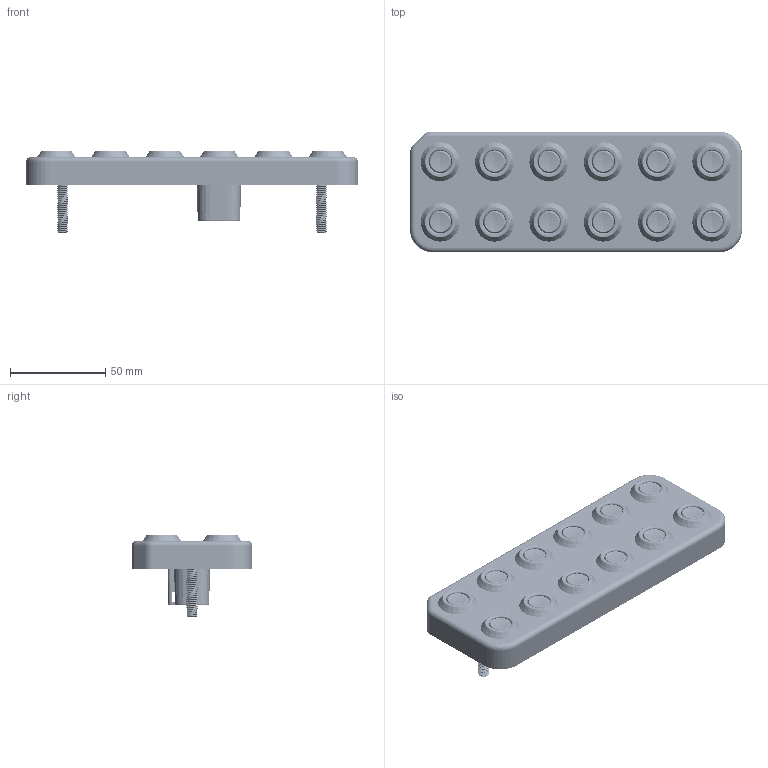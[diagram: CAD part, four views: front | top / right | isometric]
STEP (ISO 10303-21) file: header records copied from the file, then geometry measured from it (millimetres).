
FILE_DESCRIPTION (( 'STEP AP214' ), '1' );
FILE_NAME ('505230.STEP', '2025-06-12T17:19:50', ( '' ), ( '' ), 'SwSTEP 2.0', 'SolidWorks 2024', '' );
FILE_SCHEMA (( 'AUTOMOTIVE_DESIGN' ));
Length unit declared in the file: millimetre
Products named in the file (12): Molded_Connector_Pin; 93580A728_Press-Fit Studs_93580A728; 13839DX1.STEP; 13839DB.STEP; Round Icon; LightWall.STEP; 13974DA.STEP; 13973DX3; Backplate_RoundBtn; 13974DX1.STEP; 505230; 13834_011
Assembly tree (26 placements, depth 3):
  505230
    13973DX3
      Backplate_RoundBtn
      93580A728_Press-Fit Studs_93580A728  x2
      Molded_Connector_Pin  x4
    13839DX1.STEP
      13839DB.STEP
      LightWall.STEP
    13974DX1.STEP
      13974DA.STEP
    13834_011
    Round Icon  x12
Bounding box: 174.62 x 63.5 x 43.07 mm (x, y, z)
Volume: 87982.5 mm3; surface area: 133130.5 mm2
Topology: 22 solids, 944 shells, 14181 faces, 34522 edges, 20716 vertices
Faces by surface type: plane 7312, cylinder 3448, torus 1327, sphere 917, cone 607, bspline 570
Entity records: 531526 total; most frequent: CARTESIAN_POINT 125809, ORIENTED_EDGE 61820, DIRECTION 55171, EDGE_CURVE 31726, AXIS2_PLACEMENT_3D 21397, VERTEX_POINT 19580, EDGE_LOOP 13544, FACE_OUTER_BOUND 13361
